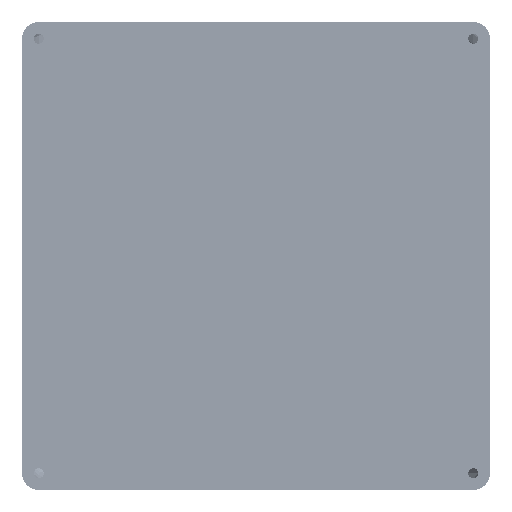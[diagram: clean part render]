
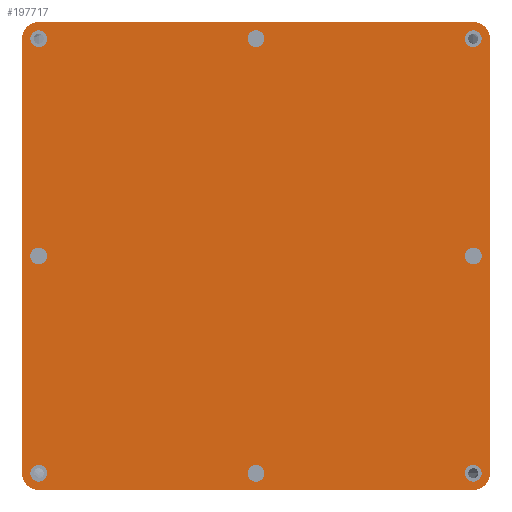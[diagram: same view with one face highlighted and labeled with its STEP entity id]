
A CAD part, front view. The second image highlights one B-rep face of the part: STEP entity #197717.
In plain terms, the highlighted planar face has unit normal (0, -1, 0).
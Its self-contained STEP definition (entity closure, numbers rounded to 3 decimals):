
#2876=FACE_BOUND('',#35546,.T.);
#2877=FACE_BOUND('',#35547,.T.);
#2878=FACE_BOUND('',#35548,.T.);
#2879=FACE_BOUND('',#35549,.T.);
#2880=FACE_BOUND('',#35550,.T.);
#2881=FACE_BOUND('',#35551,.T.);
#2882=FACE_BOUND('',#35552,.T.);
#2883=FACE_BOUND('',#35553,.T.);
#10257=PLANE('',#211642);
#24783=FACE_OUTER_BOUND('',#35545,.T.);
#35545=EDGE_LOOP('',(#185838,#185839,#185840,#185841,#185842,#185843,#185844,
#185845));
#35546=EDGE_LOOP('',(#185846));
#35547=EDGE_LOOP('',(#185847));
#35548=EDGE_LOOP('',(#185848));
#35549=EDGE_LOOP('',(#185849));
#35550=EDGE_LOOP('',(#185850));
#35551=EDGE_LOOP('',(#185851));
#35552=EDGE_LOOP('',(#185852));
#35553=EDGE_LOOP('',(#185853));
#58148=LINE('',#345867,#80746);
#58152=LINE('',#345879,#80750);
#58156=LINE('',#345891,#80754);
#58160=LINE('',#345901,#80758);
#80746=VECTOR('',#261321,10.);
#80750=VECTOR('',#261333,10.);
#80754=VECTOR('',#261345,10.);
#80758=VECTOR('',#261357,10.);
#84629=CIRCLE('',#211571,2.5);
#84632=CIRCLE('',#211576,2.5);
#84635=CIRCLE('',#211581,2.5);
#84638=CIRCLE('',#211586,2.5);
#84641=CIRCLE('',#211591,2.5);
#84644=CIRCLE('',#211596,2.5);
#84647=CIRCLE('',#211601,2.5);
#84650=CIRCLE('',#211606,2.5);
#84662=CIRCLE('',#211628,5.);
#84664=CIRCLE('',#211632,5.);
#84666=CIRCLE('',#211636,5.);
#84668=CIRCLE('',#211640,5.);
#102719=VERTEX_POINT('',#345751);
#102722=VERTEX_POINT('',#345760);
#102725=VERTEX_POINT('',#345769);
#102728=VERTEX_POINT('',#345778);
#102731=VERTEX_POINT('',#345787);
#102734=VERTEX_POINT('',#345796);
#102737=VERTEX_POINT('',#345805);
#102740=VERTEX_POINT('',#345814);
#102753=VERTEX_POINT('',#345858);
#102754=VERTEX_POINT('',#345860);
#102756=VERTEX_POINT('',#345866);
#102758=VERTEX_POINT('',#345872);
#102760=VERTEX_POINT('',#345878);
#102762=VERTEX_POINT('',#345884);
#102764=VERTEX_POINT('',#345890);
#102766=VERTEX_POINT('',#345896);
#130396=EDGE_CURVE('',#102719,#102719,#84629,.T.);
#130400=EDGE_CURVE('',#102722,#102722,#84632,.T.);
#130404=EDGE_CURVE('',#102725,#102725,#84635,.T.);
#130408=EDGE_CURVE('',#102728,#102728,#84638,.T.);
#130412=EDGE_CURVE('',#102731,#102731,#84641,.T.);
#130416=EDGE_CURVE('',#102734,#102734,#84644,.T.);
#130420=EDGE_CURVE('',#102737,#102737,#84647,.T.);
#130424=EDGE_CURVE('',#102740,#102740,#84650,.T.);
#130446=EDGE_CURVE('',#102754,#102753,#84662,.T.);
#130449=EDGE_CURVE('',#102756,#102754,#58148,.T.);
#130452=EDGE_CURVE('',#102758,#102756,#84664,.T.);
#130455=EDGE_CURVE('',#102760,#102758,#58152,.T.);
#130458=EDGE_CURVE('',#102762,#102760,#84666,.T.);
#130461=EDGE_CURVE('',#102764,#102762,#58156,.T.);
#130464=EDGE_CURVE('',#102766,#102764,#84668,.T.);
#130467=EDGE_CURVE('',#102753,#102766,#58160,.T.);
#185838=ORIENTED_EDGE('',*,*,#130467,.T.);
#185839=ORIENTED_EDGE('',*,*,#130464,.T.);
#185840=ORIENTED_EDGE('',*,*,#130461,.T.);
#185841=ORIENTED_EDGE('',*,*,#130458,.T.);
#185842=ORIENTED_EDGE('',*,*,#130455,.T.);
#185843=ORIENTED_EDGE('',*,*,#130452,.T.);
#185844=ORIENTED_EDGE('',*,*,#130449,.T.);
#185845=ORIENTED_EDGE('',*,*,#130446,.T.);
#185846=ORIENTED_EDGE('',*,*,#130396,.T.);
#185847=ORIENTED_EDGE('',*,*,#130400,.T.);
#185848=ORIENTED_EDGE('',*,*,#130404,.T.);
#185849=ORIENTED_EDGE('',*,*,#130408,.T.);
#185850=ORIENTED_EDGE('',*,*,#130412,.T.);
#185851=ORIENTED_EDGE('',*,*,#130416,.T.);
#185852=ORIENTED_EDGE('',*,*,#130420,.T.);
#185853=ORIENTED_EDGE('',*,*,#130424,.T.);
#197717=ADVANCED_FACE('',(#24783,#2876,#2877,#2878,#2879,#2880,#2881,#2882,
#2883),#10257,.T.);
#211571=AXIS2_PLACEMENT_3D('',#345752,#261184,#261185);
#211576=AXIS2_PLACEMENT_3D('',#345761,#261195,#261196);
#211581=AXIS2_PLACEMENT_3D('',#345770,#261206,#261207);
#211586=AXIS2_PLACEMENT_3D('',#345779,#261217,#261218);
#211591=AXIS2_PLACEMENT_3D('',#345788,#261228,#261229);
#211596=AXIS2_PLACEMENT_3D('',#345797,#261239,#261240);
#211601=AXIS2_PLACEMENT_3D('',#345806,#261250,#261251);
#211606=AXIS2_PLACEMENT_3D('',#345815,#261261,#261262);
#211628=AXIS2_PLACEMENT_3D('',#345861,#261315,#261316);
#211632=AXIS2_PLACEMENT_3D('',#345873,#261327,#261328);
#211636=AXIS2_PLACEMENT_3D('',#345885,#261339,#261340);
#211640=AXIS2_PLACEMENT_3D('',#345897,#261351,#261352);
#211642=AXIS2_PLACEMENT_3D('',#345902,#261358,#261359);
#261184=DIRECTION('center_axis',(0.,1.,0.));
#261185=DIRECTION('ref_axis',(1.,0.,0.));
#261195=DIRECTION('center_axis',(0.,1.,0.));
#261196=DIRECTION('ref_axis',(1.,0.,0.));
#261206=DIRECTION('center_axis',(0.,1.,0.));
#261207=DIRECTION('ref_axis',(1.,0.,0.));
#261217=DIRECTION('center_axis',(0.,1.,0.));
#261218=DIRECTION('ref_axis',(1.,0.,0.));
#261228=DIRECTION('center_axis',(0.,1.,0.));
#261229=DIRECTION('ref_axis',(1.,0.,0.));
#261239=DIRECTION('center_axis',(0.,1.,0.));
#261240=DIRECTION('ref_axis',(1.,0.,0.));
#261250=DIRECTION('center_axis',(0.,1.,0.));
#261251=DIRECTION('ref_axis',(1.,0.,0.));
#261261=DIRECTION('center_axis',(0.,1.,0.));
#261262=DIRECTION('ref_axis',(1.,0.,0.));
#261315=DIRECTION('center_axis',(0.,-1.,0.));
#261316=DIRECTION('ref_axis',(0.,0.,
-1.));
#261321=DIRECTION('',(1.,0.,0.));
#261327=DIRECTION('center_axis',(0.,-1.,0.));
#261328=DIRECTION('ref_axis',(-1.,0.,0.));
#261333=DIRECTION('',(0.,0.,-1.));
#261339=DIRECTION('center_axis',(0.,-1.,0.));
#261340=DIRECTION('ref_axis',(0.,0.,
1.));
#261345=DIRECTION('',(-1.,0.,0.));
#261351=DIRECTION('center_axis',(0.,-1.,0.));
#261352=DIRECTION('ref_axis',(1.,0.,0.));
#261357=DIRECTION('',(0.,0.,1.));
#261358=DIRECTION('center_axis',(0.,-1.,0.));
#261359=DIRECTION('ref_axis',(1.,0.,0.));
#345751=CARTESIAN_POINT('',(-2.218,-53.366,-61.175));
#345752=CARTESIAN_POINT('Origin',(0.282,-53.366,-61.175));
#345760=CARTESIAN_POINT('',(-2.218,-53.366,68.825));
#345761=CARTESIAN_POINT('Origin',(0.282,-53.366,68.825));
#345769=CARTESIAN_POINT('',(62.782,-53.366,68.825));
#345770=CARTESIAN_POINT('Origin',(65.282,-53.366,68.825));
#345778=CARTESIAN_POINT('',(-67.218,-53.366,-61.175));
#345779=CARTESIAN_POINT('Origin',(-64.718,-53.366,-61.175));
#345787=CARTESIAN_POINT('',(62.782,-53.366,-61.175));
#345788=CARTESIAN_POINT('Origin',(65.282,-53.366,-61.175));
#345796=CARTESIAN_POINT('',(-67.218,-53.366,68.825));
#345797=CARTESIAN_POINT('Origin',(-64.718,-53.366,68.825));
#345805=CARTESIAN_POINT('',(62.782,-53.366,3.825));
#345806=CARTESIAN_POINT('Origin',(65.282,-53.366,3.825));
#345814=CARTESIAN_POINT('',(-67.218,-53.366,3.825));
#345815=CARTESIAN_POINT('Origin',(-64.718,-53.366,3.825));
#345858=CARTESIAN_POINT('',(70.282,-53.366,-61.175));
#345860=CARTESIAN_POINT('',(65.282,-53.366,-66.175));
#345861=CARTESIAN_POINT('Origin',(65.282,-53.366,-61.175));
#345866=CARTESIAN_POINT('',(-64.718,-53.366,-66.175));
#345867=CARTESIAN_POINT('',(-64.718,-53.366,-66.175));
#345872=CARTESIAN_POINT('',(-69.718,-53.366,-61.175));
#345873=CARTESIAN_POINT('Origin',(-64.718,-53.366,-61.175));
#345878=CARTESIAN_POINT('',(-69.718,-53.366,68.825));
#345879=CARTESIAN_POINT('',(-69.718,-53.366,68.825));
#345884=CARTESIAN_POINT('',(-64.718,-53.366,73.825));
#345885=CARTESIAN_POINT('Origin',(-64.718,-53.366,68.825));
#345890=CARTESIAN_POINT('',(65.282,-53.366,73.825));
#345891=CARTESIAN_POINT('',(65.282,-53.366,73.825));
#345896=CARTESIAN_POINT('',(70.282,-53.366,68.825));
#345897=CARTESIAN_POINT('Origin',(65.282,-53.366,68.825));
#345901=CARTESIAN_POINT('',(70.282,-53.366,-61.175));
#345902=CARTESIAN_POINT('Origin',(0.282,-53.366,3.825));
